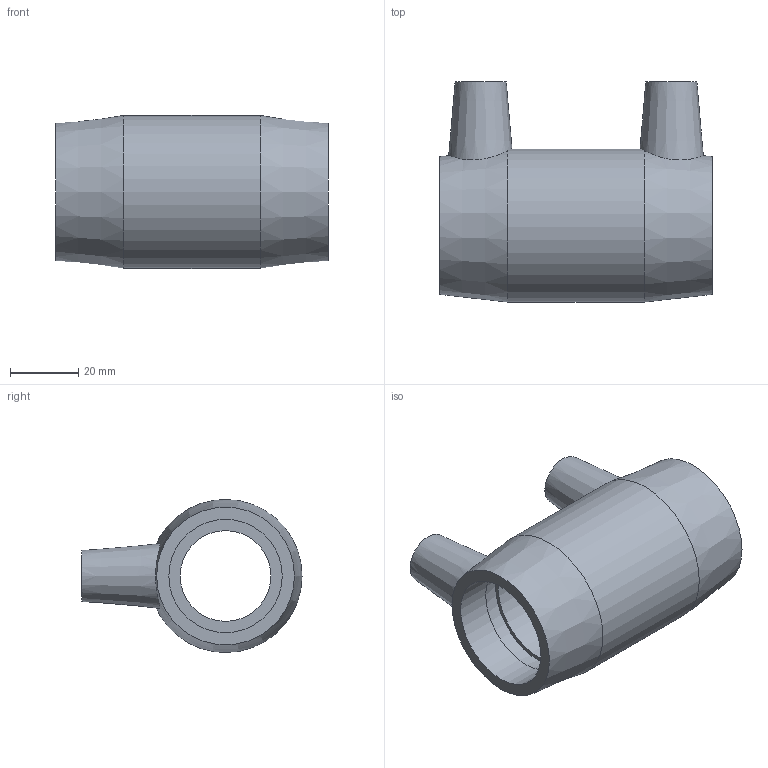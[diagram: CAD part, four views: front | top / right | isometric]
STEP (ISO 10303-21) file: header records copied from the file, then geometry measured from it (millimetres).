
FILE_DESCRIPTION(/* description */ ('PLASSON IPS COUPLER 1'''''),/* implementation_level */ '2;1');
FILE_NAME(/* name */ 'C:\Dropbox\KIMPROJECTS-Inventor 2019\99-16-3568-Processing Inch\ASTM ElectroFusion 2021\5901B\5901B004010.ipt.stp',/* time_stamp */ '2021-08-30T09:48:52+03:00',/* author */ ('KIM'),/* organization */ (''),/* preprocessor_version */ 'ST-DEVELOPER v17.2',/* originating_system */ 'Autodesk Inventor 2019',/* authorisation */ '');
FILE_SCHEMA (('AUTOMOTIVE_DESIGN { 1 0 10303 214 3 1 1 }'));
Length unit declared in the file: inch
Products named in the file (1): 5901B004010
Bounding box: 80.01 x 64.64 x 44.95 mm (x, y, z)
Volume: 58661.6 mm3; surface area: 24420 mm2
Topology: 1 solids, 1 shells, 30 faces, 68 edges, 48 vertices
Faces by surface type: plane 12, cylinder 10, cone 8
Full cylindrical faces by diameter (mm): 4 x2, 10 x2, 26.64 x1, 33.3 x4, 44.958 x1
Entity records: 991 total; most frequent: CARTESIAN_POINT 227, DIRECTION 166, ORIENTED_EDGE 136, AXIS2_PLACEMENT_3D 75, EDGE_CURVE 68, VERTEX_POINT 48, CIRCLE 44, EDGE_LOOP 40
